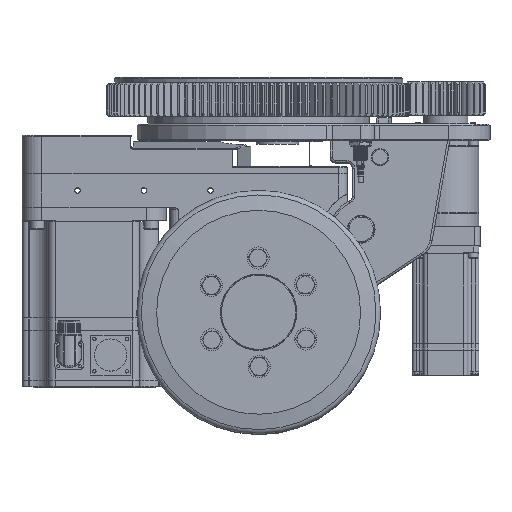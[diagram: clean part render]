
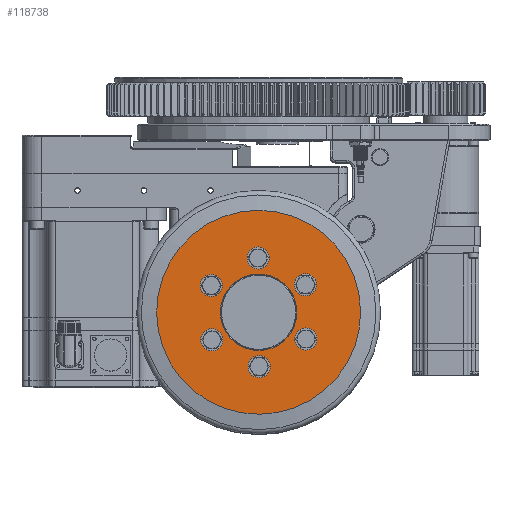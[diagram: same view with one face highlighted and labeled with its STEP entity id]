
A CAD part, top view. The second image highlights one B-rep face of the part: STEP entity #118738.
In plain terms, the highlighted planar face has unit normal (0, 0, 1).
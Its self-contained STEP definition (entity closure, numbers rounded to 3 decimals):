
#300 = DIRECTION ( 'NONE',  ( 0., 0., 1. ) ) ;
#1670 = CIRCLE ( 'NONE', #104327, 5.5 ) ;
#5036 = AXIS2_PLACEMENT_3D ( 'NONE', #97504, #41409, #40611 ) ;
#6796 = ORIENTED_EDGE ( 'NONE', *, *, #41994, .T. ) ;
#8022 = CARTESIAN_POINT ( 'NONE',  ( 50.685, 45.357, 425.696 ) ) ;
#8509 = AXIS2_PLACEMENT_3D ( 'NONE', #24029, #98903, #89450 ) ;
#8945 = DIRECTION ( 'NONE',  ( 0.008, -1., 0. ) ) ;
#9776 = CIRCLE ( 'NONE', #5036, 92. ) ;
#11224 = EDGE_LOOP ( 'NONE', ( #33152 ) ) ;
#11540 = CARTESIAN_POINT ( 'NONE',  ( 8.411, 26.002, 425.696 ) ) ;
#17314 = EDGE_LOOP ( 'NONE', ( #74760 ) ) ;
#17394 = CIRCLE ( 'NONE', #26169, 5.5 ) ;
#23377 = FACE_BOUND ( 'NONE', #115078, .T. ) ;
#24029 = CARTESIAN_POINT ( 'NONE',  ( 50.228, 99.855, 425.696 ) ) ;
#24615 = DIRECTION ( 'NONE',  ( 0.008, -1., 0. ) ) ;
#24809 = FACE_BOUND ( 'NONE', #70789, .T. ) ;
#26169 = AXIS2_PLACEMENT_3D ( 'NONE', #56342, #300, #8945 ) ;
#26324 = FACE_BOUND ( 'NONE', #28366, .T. ) ;
#26956 = CARTESIAN_POINT ( 'NONE',  ( 8.457, 20.502, 425.696 ) ) ;
#28142 = EDGE_LOOP ( 'NONE', ( #95042 ) ) ;
#28366 = EDGE_LOOP ( 'NONE', ( #68128 ) ) ;
#32426 = CIRCLE ( 'NONE', #70604, 5.5 ) ;
#33152 = ORIENTED_EDGE ( 'NONE', *, *, #107876, .F. ) ;
#33939 = DIRECTION ( 'NONE',  ( 0., 0., -1. ) ) ;
#34290 = AXIS2_PLACEMENT_3D ( 'NONE', #121251, #55212, #46987 ) ;
#35734 = EDGE_CURVE ( 'NONE', #116791, #116791, #17394, .T. ) ;
#40611 = DIRECTION ( 'NONE',  ( 0.008, -1., 0. ) ) ;
#40916 = DIRECTION ( 'NONE',  ( 0., 0., 1. ) ) ;
#41409 = DIRECTION ( 'NONE',  ( 0., 0., 1. ) ) ;
#41593 = CARTESIAN_POINT ( 'NONE',  ( -34.593, 93.643, 425.696 ) ) ;
#41994 = EDGE_CURVE ( 'NONE', #112301, #112301, #9776, .T. ) ;
#42946 = DIRECTION ( 'NONE',  ( -0.008, 1., 0. ) ) ;
#43283 = VERTEX_POINT ( 'NONE', #71458 ) ;
#43350 = CARTESIAN_POINT ( 'NONE',  ( 8., 75., 425.696 ) ) ;
#43486 = EDGE_LOOP ( 'NONE', ( #82745 ) ) ;
#45711 = EDGE_CURVE ( 'NONE', #50651, #50651, #1670, .T. ) ;
#46987 = DIRECTION ( 'NONE',  ( 0.008, -1., 0. ) ) ;
#47049 = EDGE_LOOP ( 'NONE', ( #6796 ) ) ;
#48397 = CARTESIAN_POINT ( 'NONE',  ( 50.274, 94.355, 425.696 ) ) ;
#48645 = CIRCLE ( 'NONE', #67507, 5.5 ) ;
#50580 = EDGE_CURVE ( 'NONE', #43283, #43283, #60401, .T. ) ;
#50651 = VERTEX_POINT ( 'NONE', #63232 ) ;
#51528 = PLANE ( 'NONE',  #81654 ) ;
#51961 = DIRECTION ( 'NONE',  ( 0., 0., 1. ) ) ;
#53716 = DIRECTION ( 'NONE',  ( 0., 0., 1. ) ) ;
#54948 = CIRCLE ( 'NONE', #34290, 5.5 ) ;
#55212 = DIRECTION ( 'NONE',  ( 0., 0., 1. ) ) ;
#56062 = VERTEX_POINT ( 'NONE', #112128 ) ;
#56342 = CARTESIAN_POINT ( 'NONE',  ( -34.639, 99.143, 425.696 ) ) ;
#57230 = EDGE_CURVE ( 'NONE', #71105, #71105, #32426, .T. ) ;
#58580 = ORIENTED_EDGE ( 'NONE', *, *, #45711, .F. ) ;
#59927 = DIRECTION ( 'NONE',  ( 0., 0., -1. ) ) ;
#60401 = CIRCLE ( 'NONE', #71081, 34.5 ) ;
#63232 = CARTESIAN_POINT ( 'NONE',  ( 7.635, 118.498, 425.696 ) ) ;
#67507 = AXIS2_PLACEMENT_3D ( 'NONE', #11540, #40916, #86371 ) ;
#68128 = ORIENTED_EDGE ( 'NONE', *, *, #50580, .T. ) ;
#68657 = FACE_BOUND ( 'NONE', #28142, .T. ) ;
#70604 = AXIS2_PLACEMENT_3D ( 'NONE', #100415, #53716, #108289 ) ;
#70789 = EDGE_LOOP ( 'NONE', ( #85370 ) ) ;
#71081 = AXIS2_PLACEMENT_3D ( 'NONE', #106645, #59927, #114492 ) ;
#71105 = VERTEX_POINT ( 'NONE', #8022 ) ;
#71458 = CARTESIAN_POINT ( 'NONE',  ( 7.711, 109.499, 425.696 ) ) ;
#72846 = EDGE_CURVE ( 'NONE', #75316, #75316, #87303, .T. ) ;
#74510 = FACE_BOUND ( 'NONE', #11224, .T. ) ;
#74760 = ORIENTED_EDGE ( 'NONE', *, *, #35734, .F. ) ;
#75316 = VERTEX_POINT ( 'NONE', #48397 ) ;
#80600 = CARTESIAN_POINT ( 'NONE',  ( 7.589, 123.998, 425.696 ) ) ;
#81654 = AXIS2_PLACEMENT_3D ( 'NONE', #43350, #33939, #42946 ) ;
#82745 = ORIENTED_EDGE ( 'NONE', *, *, #57230, .F. ) ;
#83376 = FACE_BOUND ( 'NONE', #43486, .T. ) ;
#85370 = ORIENTED_EDGE ( 'NONE', *, *, #72846, .F. ) ;
#86371 = DIRECTION ( 'NONE',  ( 0.008, -1., 0. ) ) ;
#87303 = CIRCLE ( 'NONE', #8509, 5.5 ) ;
#89450 = DIRECTION ( 'NONE',  ( 0.008, -1., 0. ) ) ;
#90256 = CARTESIAN_POINT ( 'NONE',  ( 8.772, -16.997, 425.696 ) ) ;
#92602 = VERTEX_POINT ( 'NONE', #26956 ) ;
#95042 = ORIENTED_EDGE ( 'NONE', *, *, #98223, .F. ) ;
#97504 = CARTESIAN_POINT ( 'NONE',  ( 8., 75., 425.696 ) ) ;
#98223 = EDGE_CURVE ( 'NONE', #56062, #56062, #54948, .T. ) ;
#98903 = DIRECTION ( 'NONE',  ( 0., 0., 1. ) ) ;
#100415 = CARTESIAN_POINT ( 'NONE',  ( 50.639, 50.857, 425.696 ) ) ;
#104327 = AXIS2_PLACEMENT_3D ( 'NONE', #80600, #51961, #24615 ) ;
#106645 = CARTESIAN_POINT ( 'NONE',  ( 8., 75., 425.696 ) ) ;
#107876 = EDGE_CURVE ( 'NONE', #92602, #92602, #48645, .T. ) ;
#108289 = DIRECTION ( 'NONE',  ( 0.008, -1., 0. ) ) ;
#112128 = CARTESIAN_POINT ( 'NONE',  ( -34.182, 44.645, 425.696 ) ) ;
#112301 = VERTEX_POINT ( 'NONE', #90256 ) ;
#114492 = DIRECTION ( 'NONE',  ( -0.008, 1., 0. ) ) ;
#115078 = EDGE_LOOP ( 'NONE', ( #58580 ) ) ;
#116791 = VERTEX_POINT ( 'NONE', #41593 ) ;
#118593 = FACE_BOUND ( 'NONE', #17314, .T. ) ;
#118738 = ADVANCED_FACE ( 'NONE', ( #118593, #68657, #74510, #83376, #24809, #23377, #26324, #121555 ), #51528, .F. ) ;
#121251 = CARTESIAN_POINT ( 'NONE',  ( -34.228, 50.145, 425.696 ) ) ;
#121555 = FACE_OUTER_BOUND ( 'NONE', #47049, .T. ) ;
